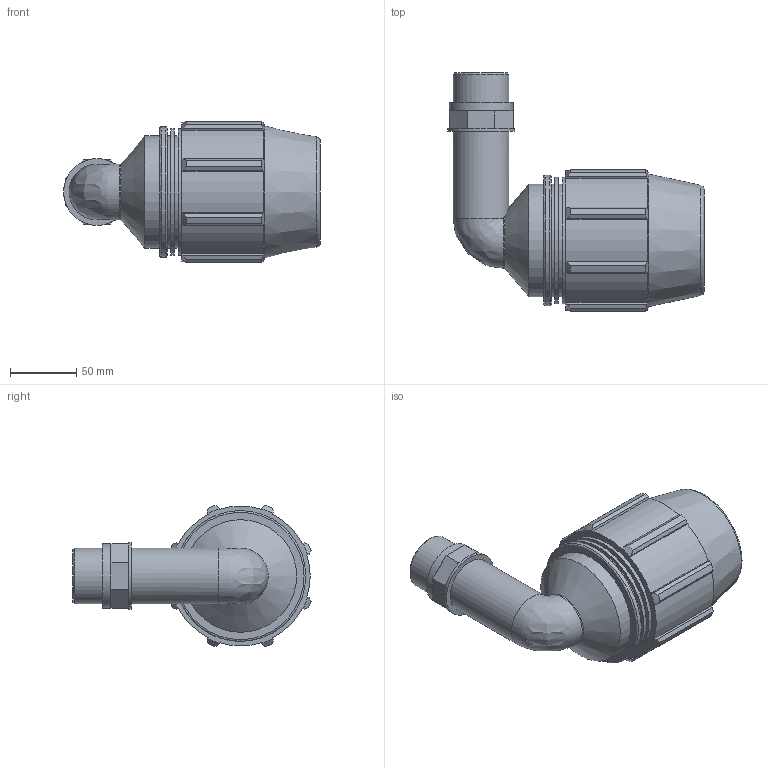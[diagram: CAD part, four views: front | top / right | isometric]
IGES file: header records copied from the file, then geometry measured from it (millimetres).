
Global section: file name: 077700063013_187700063013_0777060630130A.ipt; native system: Autodesk Inventor 2015; preprocessor: unknown; author: KIM; date: 20170622.103114; units: millimetre
Bounding box: 193.15 x 179.16 x 106.32 mm (x, y, z)
Volume: 796438.8 mm3; surface area: 122908.2 mm2
Topology: 1 solids, 1 shells, 125 faces, 320 edges, 205 vertices
Faces by surface type: plane 76, cylinder 27, cone 12, revolution 9, bspline 1
Full cylindrical faces by diameter (mm): 41.91 x2, 48.197 x1, 50.292 x1, 84.75 x3, 95.361 x2, 98.31 x1
